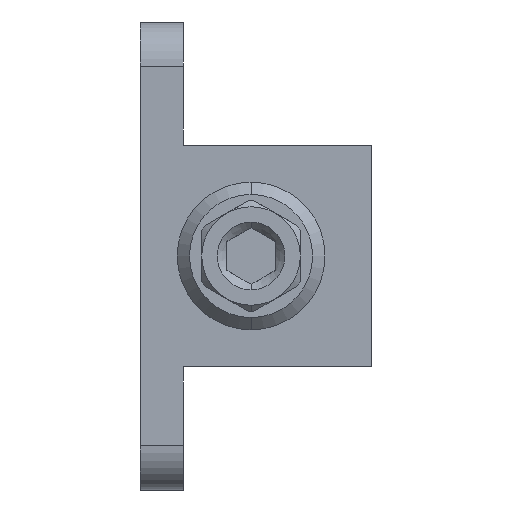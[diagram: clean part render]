
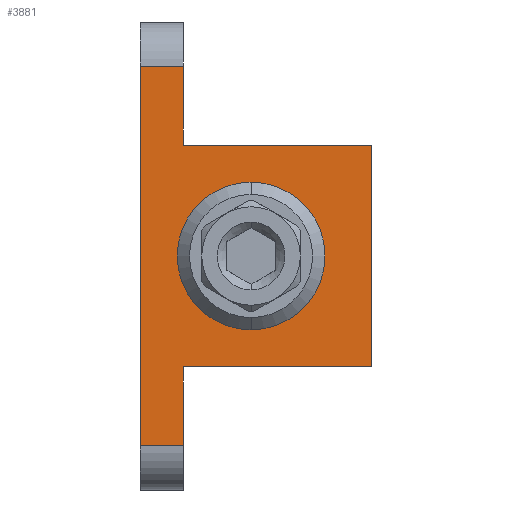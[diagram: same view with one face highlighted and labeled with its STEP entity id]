
A CAD part, left-side view. The second image highlights one B-rep face of the part: STEP entity #3881.
In plain terms, the highlighted planar face has unit normal (-1, 0, 0).
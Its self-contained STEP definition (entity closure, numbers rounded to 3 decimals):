
#54 = ORIENTED_EDGE ( 'NONE', *, *, #3581, .F. ) ;
#60 = ORIENTED_EDGE ( 'NONE', *, *, #743, .T. ) ;
#146 = CARTESIAN_POINT ( 'NONE',  ( -5., 9., 15.4 ) ) ;
#230 = DIRECTION ( 'NONE',  ( 0., 0., 1. ) ) ;
#280 = CARTESIAN_POINT ( 'NONE',  ( -5., -9.8, -9. ) ) ;
#331 = CARTESIAN_POINT ( 'NONE',  ( -5., 5.5, -9. ) ) ;
#608 = VERTEX_POINT ( 'NONE', #1734 ) ;
#743 = EDGE_CURVE ( 'NONE', #1839, #3280, #3156, .T. ) ;
#780 = VECTOR ( 'NONE', #2003, 1000. ) ;
#870 = LINE ( 'NONE', #280, #2079 ) ;
#927 = EDGE_CURVE ( 'NONE', #3280, #2136, #2490, .T. ) ;
#950 = CARTESIAN_POINT ( 'NONE',  ( -5., -9.8, 9. ) ) ;
#968 = CARTESIAN_POINT ( 'NONE',  ( -5., 5.5, -15.4 ) ) ;
#1027 = ORIENTED_EDGE ( 'NONE', *, *, #2987, .T. ) ;
#1069 = VECTOR ( 'NONE', #230, 1000. ) ;
#1272 = VERTEX_POINT ( 'NONE', #331 ) ;
#1310 = DIRECTION ( 'NONE',  ( 0., 1., 0. ) ) ;
#1386 = CARTESIAN_POINT ( 'NONE',  ( -5., 5.5, 9. ) ) ;
#1398 = VERTEX_POINT ( 'NONE', #2295 ) ;
#1424 = EDGE_CURVE ( 'NONE', #2136, #608, #1615, .T. ) ;
#1478 = LINE ( 'NONE', #950, #3306 ) ;
#1536 = VECTOR ( 'NONE', #2783, 1000. ) ;
#1570 = ORIENTED_EDGE ( 'NONE', *, *, #3655, .T. ) ;
#1601 = VECTOR ( 'NONE', #1310, 1000. ) ;
#1615 = LINE ( 'NONE', #2509, #780 ) ;
#1641 = CARTESIAN_POINT ( 'NONE',  ( -5., 5.5, -15.4 ) ) ;
#1656 = CARTESIAN_POINT ( 'NONE',  ( -5., 5.5, -9. ) ) ;
#1676 = PLANE ( 'NONE',  #3209 ) ;
#1734 = CARTESIAN_POINT ( 'NONE',  ( -5., 9., -15.4 ) ) ;
#1745 = LINE ( 'NONE', #1656, #2074 ) ;
#1839 = VERTEX_POINT ( 'NONE', #1386 ) ;
#1937 = LINE ( 'NONE', #1641, #1536 ) ;
#2003 = DIRECTION ( 'NONE',  ( 0., 0., -1. ) ) ;
#2063 = DIRECTION ( 'NONE',  ( 0., 1., 0. ) ) ;
#2074 = VECTOR ( 'NONE', #2273, 1000. ) ;
#2076 = ORIENTED_EDGE ( 'NONE', *, *, #927, .T. ) ;
#2079 = VECTOR ( 'NONE', #2063, 1000. ) ;
#2133 = CARTESIAN_POINT ( 'NONE',  ( -5., 5.5, 15.4 ) ) ;
#2136 = VERTEX_POINT ( 'NONE', #146 ) ;
#2227 = ORIENTED_EDGE ( 'NONE', *, *, #3468, .F. ) ;
#2262 = CARTESIAN_POINT ( 'NONE',  ( -5., 5.5, 15.4 ) ) ;
#2270 = CARTESIAN_POINT ( 'NONE',  ( -5., 5.5, 19. ) ) ;
#2273 = DIRECTION ( 'NONE',  ( 0., 0., -1. ) ) ;
#2295 = CARTESIAN_POINT ( 'NONE',  ( -5., -9.8, -9. ) ) ;
#2349 = ORIENTED_EDGE ( 'NONE', *, *, #2669, .T. ) ;
#2393 = CARTESIAN_POINT ( 'NONE',  ( -5., -9.8, -9. ) ) ;
#2425 = VERTEX_POINT ( 'NONE', #2787 ) ;
#2490 = LINE ( 'NONE', #2133, #1601 ) ;
#2509 = CARTESIAN_POINT ( 'NONE',  ( -5., 9., 19. ) ) ;
#2653 = VECTOR ( 'NONE', #3465, 1000. ) ;
#2669 = EDGE_CURVE ( 'NONE', #608, #3046, #1937, .T. ) ;
#2681 = LINE ( 'NONE', #2393, #1069 ) ;
#2783 = DIRECTION ( 'NONE',  ( 0., -1., 0. ) ) ;
#2787 = CARTESIAN_POINT ( 'NONE',  ( -5., -9.8, 9. ) ) ;
#2882 = EDGE_LOOP ( 'NONE', ( #3067, #2349, #2227, #54, #1570, #1027, #60, #2076 ) ) ;
#2987 = EDGE_CURVE ( 'NONE', #2425, #1839, #1478, .T. ) ;
#3046 = VERTEX_POINT ( 'NONE', #968 ) ;
#3067 = ORIENTED_EDGE ( 'NONE', *, *, #1424, .T. ) ;
#3127 = FACE_OUTER_BOUND ( 'NONE', #2882, .T. ) ;
#3136 = CARTESIAN_POINT ( 'NONE',  ( -5., 5.5, 9. ) ) ;
#3156 = LINE ( 'NONE', #3136, #2653 ) ;
#3186 = DIRECTION ( 'NONE',  ( -1., 0., 0. ) ) ;
#3209 = AXIS2_PLACEMENT_3D ( 'NONE', #2270, #3186, #3438 ) ;
#3280 = VERTEX_POINT ( 'NONE', #2262 ) ;
#3299 = DIRECTION ( 'NONE',  ( 0., 1., 0. ) ) ;
#3306 = VECTOR ( 'NONE', #3299, 1000. ) ;
#3438 = DIRECTION ( 'NONE',  ( 0., 0., 1. ) ) ;
#3465 = DIRECTION ( 'NONE',  ( 0., 0., 1. ) ) ;
#3468 = EDGE_CURVE ( 'NONE', #1272, #3046, #1745, .T. ) ;
#3581 = EDGE_CURVE ( 'NONE', #1398, #1272, #870, .T. ) ;
#3655 = EDGE_CURVE ( 'NONE', #1398, #2425, #2681, .T. ) ;
#3881 = ADVANCED_FACE ( 'NONE', ( #3127 ), #1676, .T. ) ;
